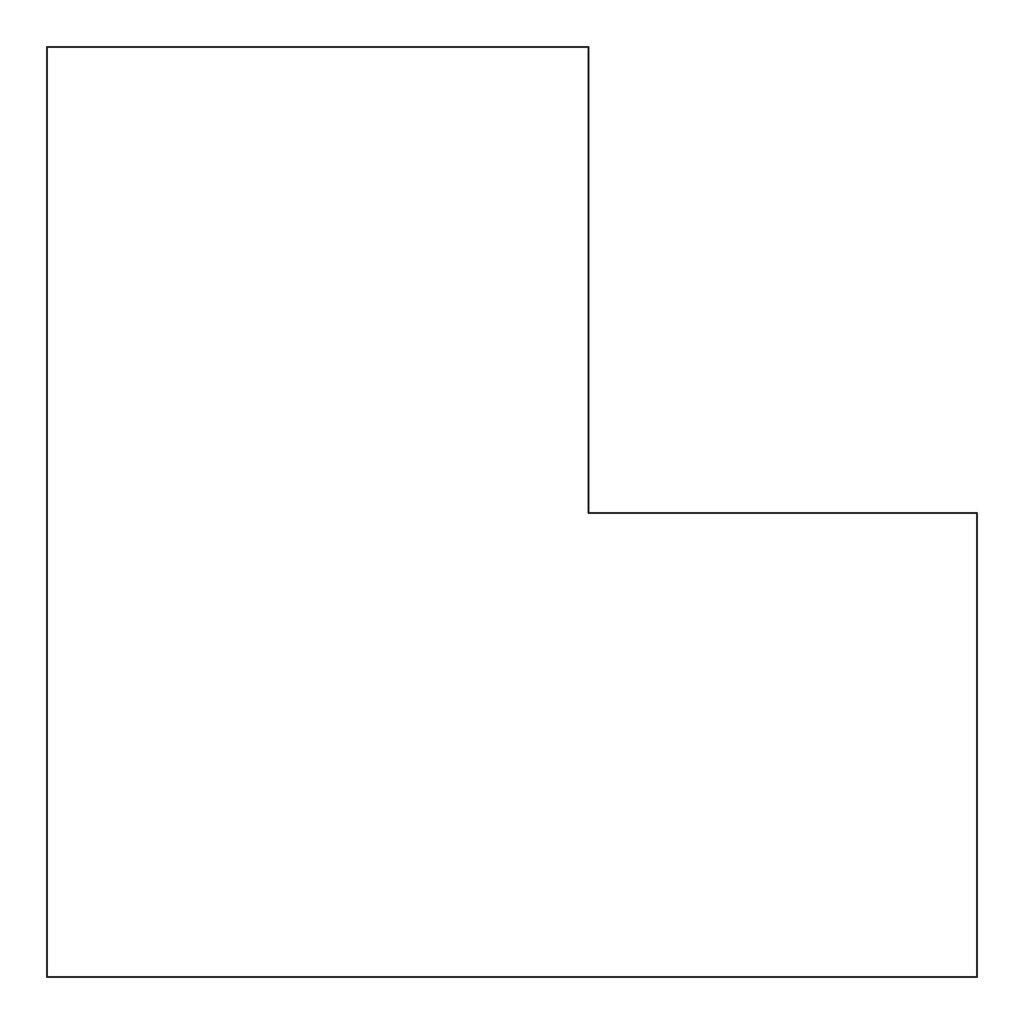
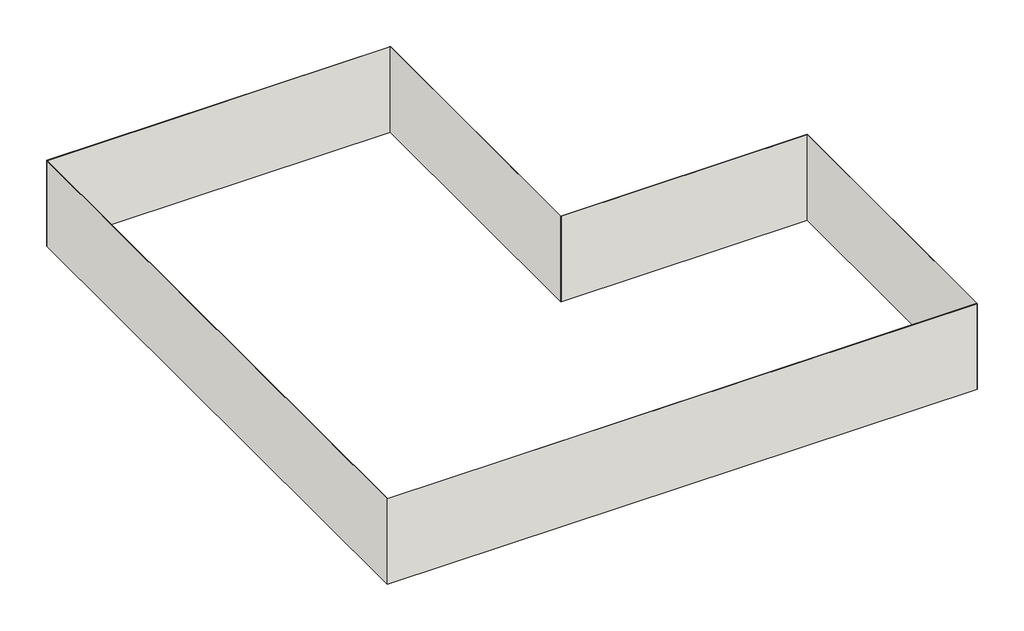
# One storey: 6 walls.
"""IFC4 building model written with IfcOpenShell, lengths in millimetres."""

from ifc_helpers import new_model, si_unit, frame, origin, place, context, project, spatial, polyline, outline, extrude, faceted_brep, element, save

model = new_model("IFC4")

# Units and contexts
model_context = context("Model", 3, world=origin())
ifc_project = project(units=[si_unit("LENGTHUNIT", "METRE", prefix="MILLI")], contexts=[model_context])

# Site, building, storey
site = spatial("IfcSite", under=ifc_project)
building = spatial("IfcBuilding", under=site)
storey = spatial("IfcBuildingStorey", under=building, Name="- 2 - Sotto platea", Elevation=-3000.0)

# Walls
placement = place(None, origin())
element("IfcWall", 1, ObjectType="Regolarizzazione con malta o Pannelli in legno", at=placement, inside=storey, context=model_context, shape_type="Brep", body=[
    faceted_brep([(-17857.5089367, 3963.003934, -3000.0), (-17842.5089367, 3963.003934, -3000.0), (-6441.5891533, 3963.003934, -3000.0), (-6426.5891533, 3963.003934, -3000.0), (-6426.5891533, 3963.003934, 0.0), (-6441.5891533, 3963.003934, 0.0), (-17842.5089367, 3963.003934, 0.0), (-17857.5089367, 3963.003934, 0.0), (-17857.5089367, 3978.003934, -3000.0), (-17857.5089367, 3978.003934, 0.0), (-6426.5891533, 3978.003934, 0.0), (-6426.5891533, 3978.003934, -3000.0)], [[[0, 1, 2, 3, 4, 5, 6, 7]], [[8, 9, 10, 11]], [[3, 2, 1, 0, 8, 11]], [[7, 6, 5, 4, 10, 9]], [[4, 3, 11, 10]], [[0, 7, 9, 8]]]),
])
element("IfcWall", 2, ObjectType="Regolarizzazione con malta o Pannelli in legno", at=placement, inside=storey, context=model_context, shape_type="Brep", body=[
    faceted_brep([(-6441.5891533, 3963.003934, -3000.0), (-6441.5891533, -5860.9559577, -3000.0), (-6441.5891533, -5860.9559577, 0.0), (-6441.5891533, 3963.003934, 0.0), (-6426.5891533, 3963.003934, -3000.0), (-6426.5891533, 3963.003934, 0.0), (-6426.5891533, -5845.9559577, 0.0), (-6426.5891533, -5860.9559577, 0.0), (-6426.5891533, -5860.9559577, -3000.0), (-6426.5891533, -5845.9559577, -3000.0)], [[[0, 1, 2, 3]], [[4, 5, 6, 7, 8, 9]], [[1, 0, 4, 9, 8]], [[3, 2, 7, 6, 5]], [[0, 3, 5, 4]], [[2, 1, 8, 7]]]),
])
element("IfcWall", 3, ObjectType="Regolarizzazione con malta o Pannelli in legno", at=placement, inside=storey, context=model_context, shape_type="Brep", body=[
    faceted_brep([(-6426.5891533, -5860.9559577, -3000.0), (1747.3707384, -5860.9559577, -3000.0), (1762.3707384, -5860.9559577, -3000.0), (1762.3707384, -5860.9559577, 0.0), (1747.3707384, -5860.9559577, 0.0), (-6426.5891533, -5860.9559577, 0.0), (-6426.5891533, -5845.9559577, -3000.0), (-6426.5891533, -5845.9559577, 0.0), (1762.3707384, -5845.9559577, 0.0), (1762.3707384, -5845.9559577, -3000.0)], [[[0, 1, 2, 3, 4, 5]], [[6, 7, 8, 9]], [[2, 1, 0, 6, 9]], [[5, 4, 3, 8, 7]], [[0, 5, 7, 6]], [[3, 2, 9, 8]]]),
])
element("IfcWall", 4, ObjectType="Regolarizzazione con malta o Pannelli in legno", at=placement, inside=storey, context=model_context, shape_type="Brep", body=[
    faceted_brep([(1747.3707384, -5860.9559577, -3000.0), (1747.3707384, -15630.7761472, -3000.0), (1747.3707384, -15645.7761472, -3000.0), (1747.3707384, -15645.7761472, 0.0), (1747.3707384, -15630.7761472, 0.0), (1747.3707384, -5860.9559577, 0.0), (1762.3707384, -5860.9559577, -3000.0), (1762.3707384, -5860.9559577, 0.0), (1762.3707384, -15645.7761472, 0.0), (1762.3707384, -15645.7761472, -3000.0)], [[[0, 1, 2, 3, 4, 5]], [[6, 7, 8, 9]], [[2, 1, 0, 6, 9]], [[5, 4, 3, 8, 7]], [[0, 5, 7, 6]], [[3, 2, 9, 8]]]),
])
element("IfcWall", 5, ObjectType="Regolarizzazione con malta o Pannelli in legno", at=placement, inside=storey, context=model_context, shape_type="Brep", body=[
    faceted_brep([(1747.3707384, -15630.7761472, -3000.0), (-17842.5089367, -15630.7761472, -3000.0), (-17857.5089367, -15630.7761472, -3000.0), (-17857.5089367, -15630.7761472, 0.0), (-17842.5089367, -15630.7761472, 0.0), (1747.3707384, -15630.7761472, 0.0), (1747.3707384, -15645.7761472, -3000.0), (1747.3707384, -15645.7761472, 0.0), (-17857.5089367, -15645.7761472, 0.0), (-17857.5089367, -15645.7761472, -3000.0)], [[[0, 1, 2, 3, 4, 5]], [[6, 7, 8, 9]], [[2, 1, 0, 6, 9]], [[5, 4, 3, 8, 7]], [[0, 5, 7, 6]], [[3, 2, 9, 8]]]),
])
element("IfcWall", 6, ObjectType="Regolarizzazione con malta o Pannelli in legno", at=placement, inside=storey, context=model_context, shape_type="SweptSolid", body=[
    extrude(outline(polyline([(-17842.5089367, 3963.003934), (-17842.5089367, -15630.7761472), (-17857.5089367, -15630.7761472), (-17857.5089367, 3963.003934), (-17842.5089367, 3963.003934)])), frame((0.0, 0.0, -3000.0), z_axis=(0.0, 0.0, 1.0), x_axis=(1.0, 0.0, 0.0)), (0.0, 0.0, 1.0), 3000.0),
])

save(model, "model.ifc")
